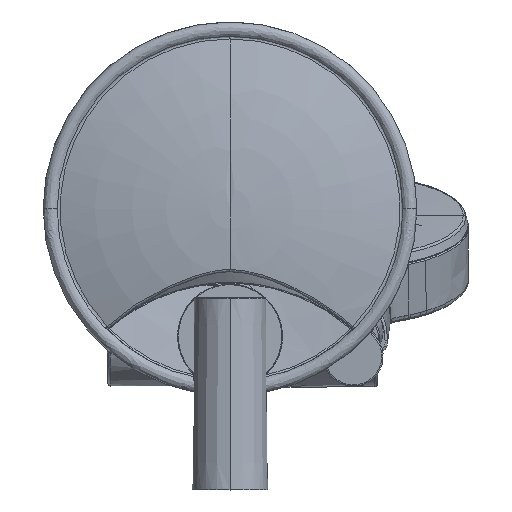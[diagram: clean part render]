
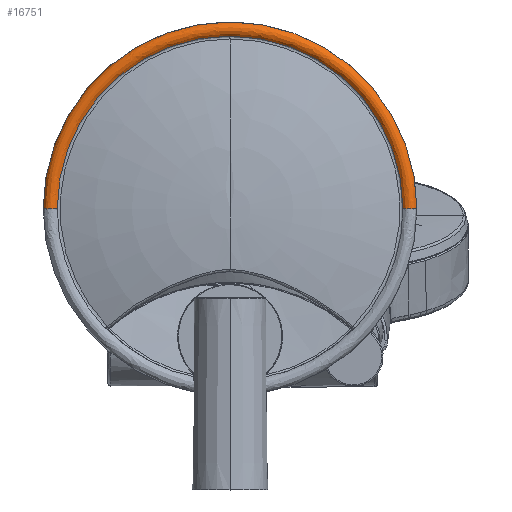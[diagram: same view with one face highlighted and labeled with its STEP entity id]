
A CAD part, front view. The second image highlights one B-rep face of the part: STEP entity #16751.
In plain terms, the highlighted free-form (B-spline) face has degree [3, 3] with [4, 4] control points.
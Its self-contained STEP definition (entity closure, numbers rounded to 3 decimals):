
#1359 = CARTESIAN_POINT ( 'NONE',  ( 49.528, -224.233, 188.855 ) ) ;
#1441 = EDGE_CURVE ( 'NONE', #5481, #16771, #20214, .T. ) ;
#1616 = CARTESIAN_POINT ( 'NONE',  ( -93., -223.178, 49.8 ) ) ;
#1984 = DIRECTION ( 'NONE',  ( -1., 0., 0. ) ) ;
#2926 = EDGE_CURVE ( 'NONE', #23974, #5481, #7456, .T. ) ;
#4599 = VERTEX_POINT ( 'NONE', #19725 ) ;
#5120 = DIRECTION ( 'NONE',  ( 0., 1., 0. ) ) ;
#5359 = CARTESIAN_POINT ( 'NONE',  ( -87.508, -221.218, 49.8 ) ) ;
#5481 = VERTEX_POINT ( 'NONE', #8563 ) ;
#7456 = CIRCLE ( 'NONE', #8719, 3. ) ;
#7544 = CIRCLE ( 'NONE', #21967, 67.508 ) ;
#7956 = AXIS2_PLACEMENT_3D ( 'NONE', #15366, #5120, #15233 ) ;
#8563 = CARTESIAN_POINT ( 'NONE',  ( 53., -219.549, 49.8 ) ) ;
#8719 = AXIS2_PLACEMENT_3D ( 'NONE', #18103, #14093, #22217 ) ;
#10002 = CARTESIAN_POINT ( 'NONE',  ( 53., -223.178, 195.8 ) ) ;
#10262 = CARTESIAN_POINT ( 'NONE',  ( 53., -219.549, 49.8 ) ) ;
#10459 = EDGE_CURVE ( 'NONE', #4599, #17461, #7544, .T. ) ;
#10777 = AXIS2_PLACEMENT_3D ( 'NONE', #24227, #14095, #1984 ) ;
#10931 = DIRECTION ( 'NONE',  ( -1., 0., 0. ) ) ;
#11163 =( BOUNDED_SURFACE ( )  B_SPLINE_SURFACE ( 3, 3, ( 
 ( #13598, #15482, #23593, #5359 ),
 ( #19602, #1359, #17610, #19739 ),
 ( #20385, #10002, #19865, #1616 ),
 ( #10262, #25990, #12253, #26253 ) ),
 .UNSPECIFIED., .F., .F., .F. ) 
 B_SPLINE_SURFACE_WITH_KNOTS ( ( 4, 4 ),
 ( 4, 4 ),
 ( 0., 1. ),
 ( 0., 1. ),
 .UNSPECIFIED. ) 
 GEOMETRIC_REPRESENTATION_ITEM ( )  RATIONAL_B_SPLINE_SURFACE ( (
 ( 1., 0.333, 0.333, 1.),
 ( 0.527, 0.176, 0.176, 0.527),
 ( 0.527, 0.176, 0.176, 0.527),
 ( 1., 0.333, 0.333, 1.) ) ) 
 REPRESENTATION_ITEM ( '' )  SURFACE ( )  );
#11284 = CARTESIAN_POINT ( 'NONE',  ( -20.1, -221.218, 117.308 ) ) ;
#11752 = EDGE_CURVE ( 'NONE', #17461, #23974, #17723, .T. ) ;
#12253 = CARTESIAN_POINT ( 'NONE',  ( -93., -219.549, 195.8 ) ) ;
#13192 = CARTESIAN_POINT ( 'NONE',  ( -20., -219.549, 49.8 ) ) ;
#13598 = CARTESIAN_POINT ( 'NONE',  ( 47.508, -221.218, 49.8 ) ) ;
#14093 = DIRECTION ( 'NONE',  ( 0., 0., 1. ) ) ;
#14095 = DIRECTION ( 'NONE',  ( 0., 0., -1. ) ) ;
#14541 = CARTESIAN_POINT ( 'NONE',  ( 47.508, -221.218, 49.8 ) ) ;
#15233 = DIRECTION ( 'NONE',  ( -0.001, 0., 1. ) ) ;
#15366 = CARTESIAN_POINT ( 'NONE',  ( -20., -221.218, 49.8 ) ) ;
#15482 = CARTESIAN_POINT ( 'NONE',  ( 47.508, -221.218, 184.815 ) ) ;
#16751 = ADVANCED_FACE ( 'NONE', ( #23724 ), #11163, .T. ) ;
#16771 = VERTEX_POINT ( 'NONE', #17871 ) ;
#17067 = DIRECTION ( 'NONE',  ( 0., -1., 0. ) ) ;
#17203 = EDGE_CURVE ( 'NONE', #4599, #16771, #21817, .T. ) ;
#17461 = VERTEX_POINT ( 'NONE', #11284 ) ;
#17610 = CARTESIAN_POINT ( 'NONE',  ( -89.528, -224.233, 188.855 ) ) ;
#17661 = ORIENTED_EDGE ( 'NONE', *, *, #10459, .T. ) ;
#17723 = CIRCLE ( 'NONE', #7956, 67.508 ) ;
#17848 = ORIENTED_EDGE ( 'NONE', *, *, #2926, .T. ) ;
#17871 = CARTESIAN_POINT ( 'NONE',  ( -93., -219.549, 49.8 ) ) ;
#18103 = CARTESIAN_POINT ( 'NONE',  ( 50., -219.549, 49.8 ) ) ;
#18516 = AXIS2_PLACEMENT_3D ( 'NONE', #13192, #17067, #10931 ) ;
#19260 = DIRECTION ( 'NONE',  ( -0.001, 0., 1. ) ) ;
#19602 = CARTESIAN_POINT ( 'NONE',  ( 49.528, -224.233, 49.8 ) ) ;
#19725 = CARTESIAN_POINT ( 'NONE',  ( -87.508, -221.218, 49.8 ) ) ;
#19739 = CARTESIAN_POINT ( 'NONE',  ( -89.528, -224.233, 49.8 ) ) ;
#19865 = CARTESIAN_POINT ( 'NONE',  ( -93., -223.178, 195.8 ) ) ;
#20214 = CIRCLE ( 'NONE', #18516, 73. ) ;
#20251 = ORIENTED_EDGE ( 'NONE', *, *, #11752, .T. ) ;
#20385 = CARTESIAN_POINT ( 'NONE',  ( 53., -223.178, 49.8 ) ) ;
#21817 = CIRCLE ( 'NONE', #10777, 3. ) ;
#21967 = AXIS2_PLACEMENT_3D ( 'NONE', #23508, #22890, #19260 ) ;
#22087 = ORIENTED_EDGE ( 'NONE', *, *, #17203, .F. ) ;
#22217 = DIRECTION ( 'NONE',  ( 1., 0., 0. ) ) ;
#22890 = DIRECTION ( 'NONE',  ( 0., 1., 0. ) ) ;
#23393 = ORIENTED_EDGE ( 'NONE', *, *, #1441, .T. ) ;
#23508 = CARTESIAN_POINT ( 'NONE',  ( -20., -221.218, 49.8 ) ) ;
#23593 = CARTESIAN_POINT ( 'NONE',  ( -87.508, -221.218, 184.815 ) ) ;
#23724 = FACE_OUTER_BOUND ( 'NONE', #26260, .T. ) ;
#23974 = VERTEX_POINT ( 'NONE', #14541 ) ;
#24227 = CARTESIAN_POINT ( 'NONE',  ( -90., -219.549, 49.8 ) ) ;
#25990 = CARTESIAN_POINT ( 'NONE',  ( 53., -219.549, 195.8 ) ) ;
#26253 = CARTESIAN_POINT ( 'NONE',  ( -93., -219.549, 49.8 ) ) ;
#26260 = EDGE_LOOP ( 'NONE', ( #17661, #20251, #17848, #23393, #22087 ) ) ;
